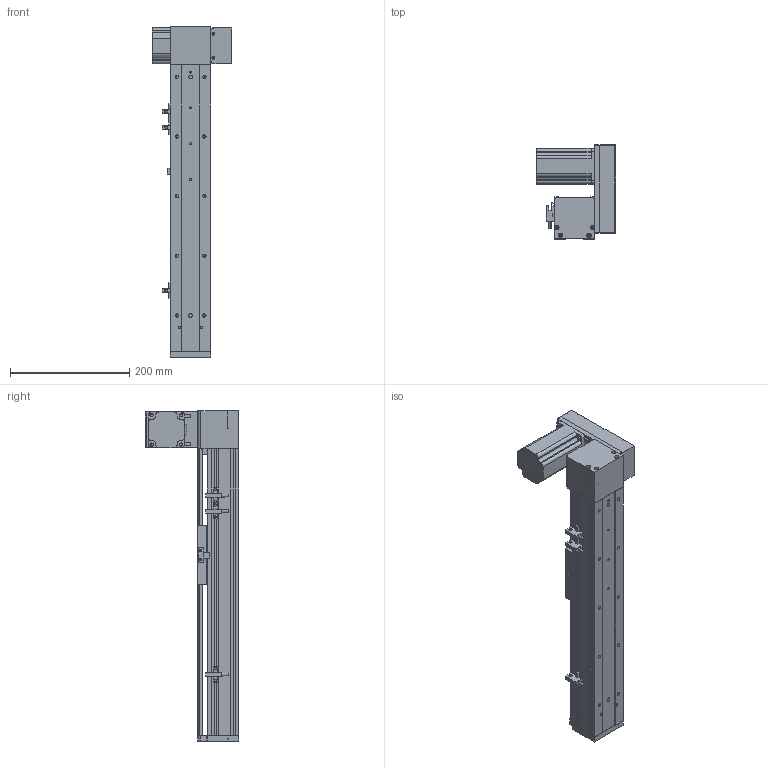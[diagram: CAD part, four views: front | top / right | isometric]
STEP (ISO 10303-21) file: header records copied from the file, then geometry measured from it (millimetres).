
FILE_DESCRIPTION (( 'STEP AP203' ), '1' );
FILE_NAME ('ML68-S300-UL.STEP', '2016-08-04T12:27:22', ( '' ), ( '' ), 'SwSTEP 2.0', 'SolidWorks 2014', '' );
FILE_SCHEMA (( 'CONFIG_CONTROL_DESIGN' ));
Length unit declared in the file: millimetre
Products named in the file (12): ML68-BR傷啣; ML68-S300-UL; ML68雄赽釱; ML68菁釱^ML68-S300-UL; ML68滅鳥啣盓傅輸媼; 60換覜結え; QS68酘衵殏萇儂啣; 換覜ん; 三协电机MH201N2_預設; ML68奻裔^ML68-S300-UL; QS68左右折电机板罩子; ML68傷啣
Assembly tree (13 placements, depth 2):
  ML68-S300-UL
    ML68菁釱^ML68-S300-UL
    ML68奻裔^ML68-S300-UL
    60換覜結え
    ML68-BR傷啣
    換覜ん  x3
    ML68傷啣
    三协电机MH201N2_預設
    ML68雄赽釱
    QS68酘衵殏萇儂啣
    QS68左右折电机板罩子
    ML68滅鳥啣盓傅輸媼
Bounding box: 133.5 x 157 x 554 mm (x, y, z)
Volume: 1318686.1 mm3; surface area: 454151.9 mm2
Topology: 13 solids, 13 shells, 867 faces, 2372 edges, 1507 vertices
Faces by surface type: cylinder 392, plane 383, cone 92
Entity records: 27320 total; most frequent: CARTESIAN_POINT 5090, DIRECTION 4490, ORIENTED_EDGE 4252, EDGE_CURVE 2126, AXIS2_PLACEMENT_3D 1615, VERTEX_POINT 1395, VECTOR 1260, LINE 1260
